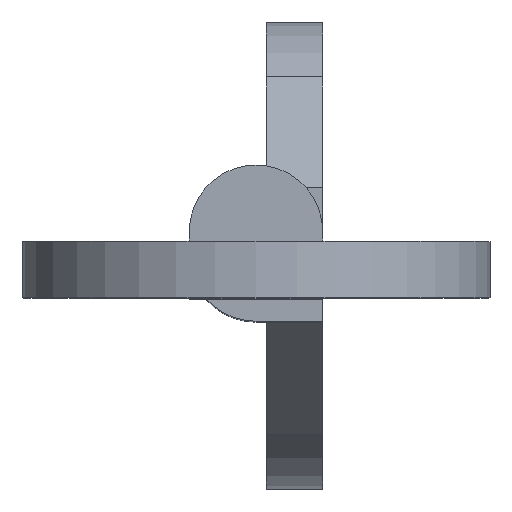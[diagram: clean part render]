
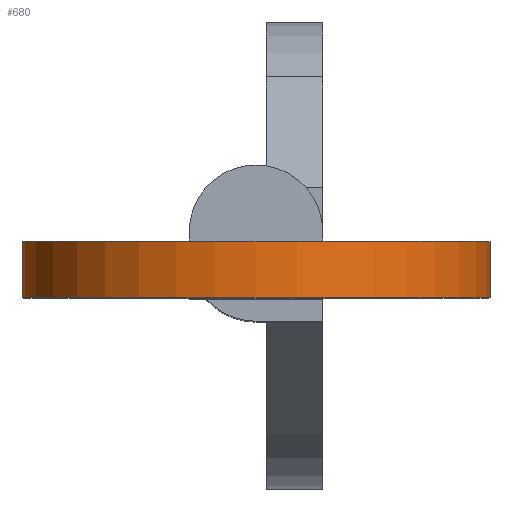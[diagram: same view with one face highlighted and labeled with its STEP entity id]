
A CAD part, top view. The second image highlights one B-rep face of the part: STEP entity #680.
In plain terms, the highlighted cylindrical face has radius 4.19 mm (diameter 8.38 mm), a partial arc.
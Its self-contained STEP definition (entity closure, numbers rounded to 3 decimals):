
#18 = ORIENTED_EDGE ( 'NONE', *, *, #799, .T. ) ;
#25 = CARTESIAN_POINT ( 'NONE',  ( 0., -0.185, 127. ) ) ;
#28 = EDGE_CURVE ( 'NONE', #348, #296, #604, .T. ) ;
#44 = DIRECTION ( 'NONE',  ( 0., -1., 0. ) ) ;
#128 = LINE ( 'NONE', #853, #617 ) ;
#147 = FACE_OUTER_BOUND ( 'NONE', #788, .T. ) ;
#150 = CARTESIAN_POINT ( 'NONE',  ( 3.202, -1.195, 124.297 ) ) ;
#152 = CARTESIAN_POINT ( 'NONE',  ( -3.202, -1.195, 124.297 ) ) ;
#207 = EDGE_CURVE ( 'NONE', #598, #794, #128, .T. ) ;
#231 = CARTESIAN_POINT ( 'NONE',  ( 3.202, -0.185, 124.297 ) ) ;
#269 = VECTOR ( 'NONE', #44, 1000. ) ;
#293 = EDGE_CURVE ( 'NONE', #296, #794, #849, .T. ) ;
#296 = VERTEX_POINT ( 'NONE', #150 ) ;
#307 = CARTESIAN_POINT ( 'NONE',  ( 0., -1.195, 127. ) ) ;
#336 = CIRCLE ( 'NONE', #877, 4.19 ) ;
#340 = DIRECTION ( 'NONE',  ( 0., 0., -1. ) ) ;
#348 = VERTEX_POINT ( 'NONE', #231 ) ;
#415 = AXIS2_PLACEMENT_3D ( 'NONE', #25, #567, #622 ) ;
#420 = CYLINDRICAL_SURFACE ( 'NONE', #415, 4.19 ) ;
#430 = CARTESIAN_POINT ( 'NONE',  ( 0., -0.185, 127. ) ) ;
#431 = CARTESIAN_POINT ( 'NONE',  ( -3.202, -0.185, 124.297 ) ) ;
#559 = AXIS2_PLACEMENT_3D ( 'NONE', #307, #702, #831 ) ;
#567 = DIRECTION ( 'NONE',  ( 0., -1., 0. ) ) ;
#598 = VERTEX_POINT ( 'NONE', #431 ) ;
#604 = LINE ( 'NONE', #721, #269 ) ;
#617 = VECTOR ( 'NONE', #739, 1000. ) ;
#622 = DIRECTION ( 'NONE',  ( 0., 0., -1. ) ) ;
#625 = ORIENTED_EDGE ( 'NONE', *, *, #207, .T. ) ;
#666 = ORIENTED_EDGE ( 'NONE', *, *, #293, .F. ) ;
#680 = ADVANCED_FACE ( 'NONE', ( #147 ), #420, .T. ) ;
#702 = DIRECTION ( 'NONE',  ( 0., -1., 0. ) ) ;
#721 = CARTESIAN_POINT ( 'NONE',  ( 3.202, -0.185, 124.297 ) ) ;
#739 = DIRECTION ( 'NONE',  ( 0., -1., 0. ) ) ;
#788 = EDGE_LOOP ( 'NONE', ( #666, #872, #18, #625 ) ) ;
#794 = VERTEX_POINT ( 'NONE', #152 ) ;
#799 = EDGE_CURVE ( 'NONE', #348, #598, #336, .T. ) ;
#821 = DIRECTION ( 'NONE',  ( 0., -1., 0. ) ) ;
#831 = DIRECTION ( 'NONE',  ( 0., 0., -1. ) ) ;
#849 = CIRCLE ( 'NONE', #559, 4.19 ) ;
#853 = CARTESIAN_POINT ( 'NONE',  ( -3.202, -0.185, 124.297 ) ) ;
#872 = ORIENTED_EDGE ( 'NONE', *, *, #28, .F. ) ;
#877 = AXIS2_PLACEMENT_3D ( 'NONE', #430, #821, #340 ) ;
